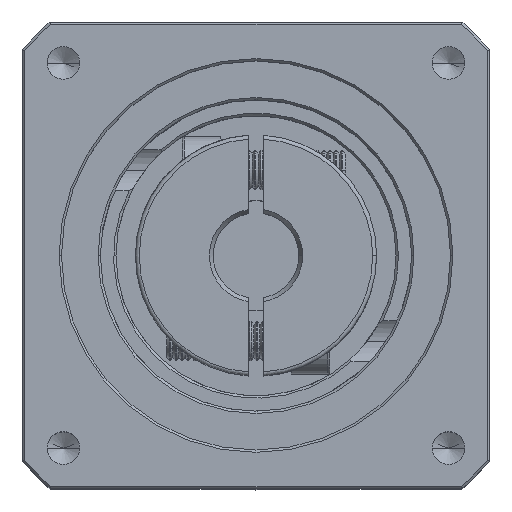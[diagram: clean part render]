
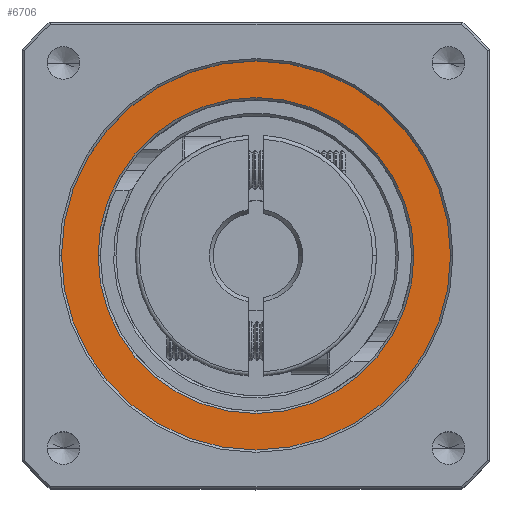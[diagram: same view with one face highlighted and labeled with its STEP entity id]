
A CAD part, top view. The second image highlights one B-rep face of the part: STEP entity #6706.
In plain terms, the highlighted planar face has unit normal (0, 0, 1).
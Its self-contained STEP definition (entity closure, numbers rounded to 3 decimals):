
#708 = AXIS2_PLACEMENT_3D ( 'NONE', #47082, #1893, #54601 ) ;
#814 = EDGE_LOOP ( 'NONE', ( #94965, #92764 ) ) ;
#1893 = DIRECTION ( 'NONE',  ( 0., 0., 1. ) ) ;
#2266 = AXIS2_PLACEMENT_3D ( 'NONE', #30495, #83142, #38035 ) ;
#6706 = ADVANCED_FACE ( 'NONE', ( #96055, #49019 ), #81810, .T. ) ;
#7830 = CARTESIAN_POINT ( 'NONE',  ( -95.553, 17.545, 33.731 ) ) ;
#10743 = EDGE_CURVE ( 'NONE', #68816, #52261, #13705, .T. ) ;
#11093 = VERTEX_POINT ( 'NONE', #7830 ) ;
#13705 = CIRCLE ( 'NONE', #21491, 20.3 ) ;
#15196 = CARTESIAN_POINT ( 'NONE',  ( -45.553, 17.545, 33.731 ) ) ;
#16780 = CARTESIAN_POINT ( 'NONE',  ( -70.553, 17.545, 33.731 ) ) ;
#21491 = AXIS2_PLACEMENT_3D ( 'NONE', #16780, #69500, #24363 ) ;
#22332 = CARTESIAN_POINT ( 'NONE',  ( -70.553, 17.545, 33.731 ) ) ;
#24363 = DIRECTION ( 'NONE',  ( 1., 0., 0. ) ) ;
#29954 = DIRECTION ( 'NONE',  ( 1., 0., 0. ) ) ;
#30495 = CARTESIAN_POINT ( 'NONE',  ( -70.553, 17.545, 33.731 ) ) ;
#34064 = EDGE_CURVE ( 'NONE', #52261, #68816, #69386, .T. ) ;
#38035 = DIRECTION ( 'NONE',  ( 1., 0., 0. ) ) ;
#43301 = CIRCLE ( 'NONE', #46847, 25. ) ;
#45079 = ORIENTED_EDGE ( 'NONE', *, *, #10743, .T. ) ;
#46842 = CARTESIAN_POINT ( 'NONE',  ( -90.853, 17.545, 33.731 ) ) ;
#46847 = AXIS2_PLACEMENT_3D ( 'NONE', #22332, #75027, #29954 ) ;
#47082 = CARTESIAN_POINT ( 'NONE',  ( -70.553, 17.545, 33.731 ) ) ;
#49019 = FACE_OUTER_BOUND ( 'NONE', #814, .T. ) ;
#50609 = ORIENTED_EDGE ( 'NONE', *, *, #34064, .T. ) ;
#52261 = VERTEX_POINT ( 'NONE', #59860 ) ;
#54601 = DIRECTION ( 'NONE',  ( 1., 0., 0. ) ) ;
#59860 = CARTESIAN_POINT ( 'NONE',  ( -50.253, 17.545, 33.731 ) ) ;
#63744 = VERTEX_POINT ( 'NONE', #15196 ) ;
#68816 = VERTEX_POINT ( 'NONE', #46842 ) ;
#69386 = CIRCLE ( 'NONE', #2266, 20.3 ) ;
#69500 = DIRECTION ( 'NONE',  ( 0., 0., -1. ) ) ;
#75027 = DIRECTION ( 'NONE',  ( 0., 0., 1. ) ) ;
#78216 = EDGE_CURVE ( 'NONE', #63744, #11093, #43301, .T. ) ;
#78499 = AXIS2_PLACEMENT_3D ( 'NONE', #80214, #80086, #79866 ) ;
#79866 = DIRECTION ( 'NONE',  ( 1., 0., 0. ) ) ;
#80086 = DIRECTION ( 'NONE',  ( 0., 0., 1. ) ) ;
#80214 = CARTESIAN_POINT ( 'NONE',  ( -70.553, 17.545, 33.731 ) ) ;
#81810 = PLANE ( 'NONE',  #78499 ) ;
#81928 = EDGE_LOOP ( 'NONE', ( #50609, #45079 ) ) ;
#83142 = DIRECTION ( 'NONE',  ( 0., 0., -1. ) ) ;
#84766 = EDGE_CURVE ( 'NONE', #11093, #63744, #93883, .T. ) ;
#92764 = ORIENTED_EDGE ( 'NONE', *, *, #84766, .T. ) ;
#93883 = CIRCLE ( 'NONE', #708, 25. ) ;
#94965 = ORIENTED_EDGE ( 'NONE', *, *, #78216, .T. ) ;
#96055 = FACE_BOUND ( 'NONE', #81928, .T. ) ;
